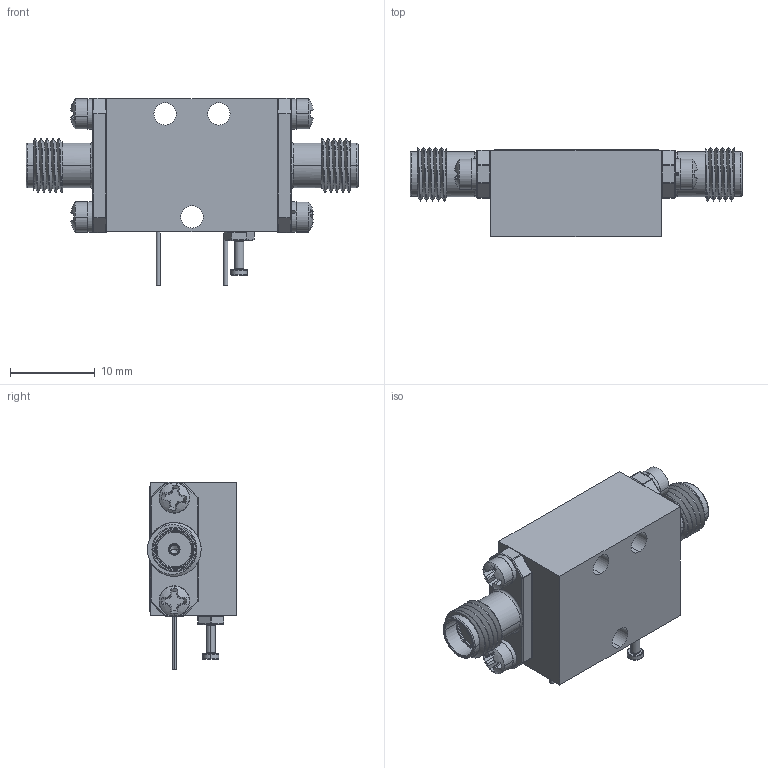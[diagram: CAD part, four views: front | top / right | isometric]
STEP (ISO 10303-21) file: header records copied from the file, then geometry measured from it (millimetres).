
FILE_DESCRIPTION (( 'STEP AP214' ), '1' );
FILE_NAME ('TD-30T-218-FC-HS-ROHS.STEP', '2025-10-13T11:26:38', ( '' ), ( '' ), 'SwSTEP 2.0', 'SolidWorks 2024', '' );
FILE_SCHEMA (( 'AUTOMOTIVE_DESIGN' ));
Length unit declared in the file: inch
Products named in the file (1): TD-30T-218-FC-HS-ROHS
Bounding box: 39.22 x 10.54 x 22.15 mm (x, y, z)
Volume: 3776.9 mm3; surface area: 3590 mm2
Topology: 22 solids, 22 shells, 773 faces, 3027 edges, 2437 vertices
Faces by surface type: plane 350, cylinder 196, torus 95, sphere 67, cone 45, bspline 20
Entity records: 46605 total; most frequent: CARTESIAN_POINT 15487, ORIENTED_EDGE 5950, DIRECTION 4501, EDGE_CURVE 2975, VERTEX_POINT 2437, AXIS2_PLACEMENT_3D 1504, LINE 1493, VECTOR 1493
